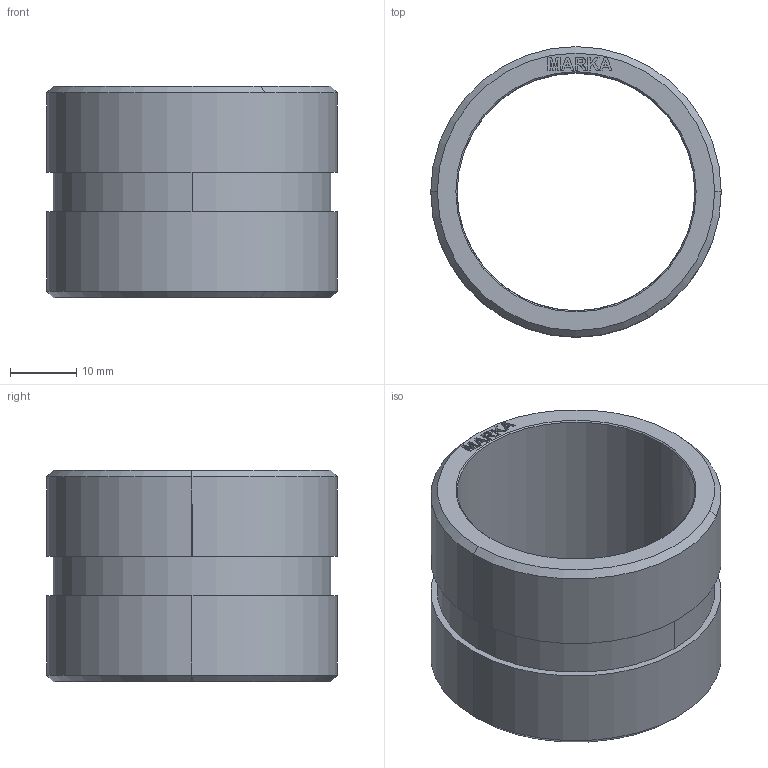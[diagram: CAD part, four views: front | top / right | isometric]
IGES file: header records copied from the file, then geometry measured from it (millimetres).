
Start section: START RECORD GO HERE.
Global section: file name: C104-02-040-030.igs; native system: DASSAULT SYSTEMES CATIA V5 R20 - www.3ds.com; preprocessor: CATIA Version 5 Release 20 ; author: Utente; organization: NB04-ASUS; date: 20200422.153545; units: millimetre
Bounding box: 44 x 44 x 32 mm (x, y, z)
Surface area: 9143.3 mm2 (no closed solid volume)
Topology: 0 solids, 0 shells, 250 faces, 1412 edges, 1412 vertices
Faces by surface type: plane 230, revolution 20
